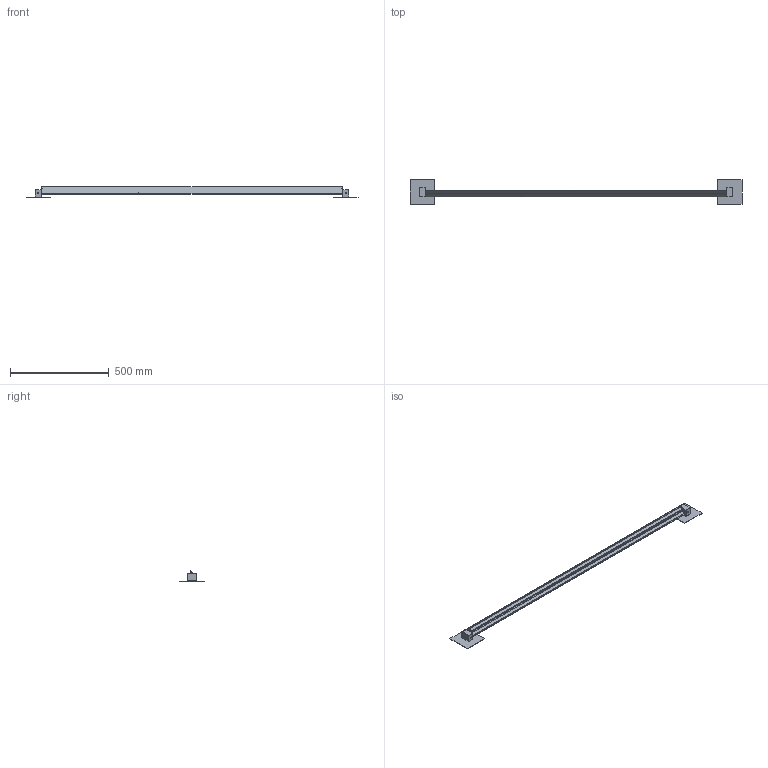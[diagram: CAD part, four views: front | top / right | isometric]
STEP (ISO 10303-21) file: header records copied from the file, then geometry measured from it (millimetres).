
FILE_DESCRIPTION(/* description */ ('Unknown'),/* implementation_level */ '2;1');
FILE_NAME(/* name */ 'F39 G05-G06',/* time_stamp */ '2021-01-11T10:25:13+01:00',/* author */ ('Unknown'),/* organization */ ('Unknown'),/* preprocessor_version */ 'ST-DEVELOPER v16.7',/* originating_system */ 'Solid Edge',/* authorisation */ 'Unknown');
FILE_SCHEMA (('AUTOMOTIVE_DESIGN {1 0 10303 214 3 1 1}'));
Length unit declared in the file: millimetre
Products named in the file (11): ASSIEME APPLIQUE GRANDE PIVOT_R07 - America; STAFFA AP PIVOT_R07; COPRI STAFFA AP PIVOT_R07; PERNO PIVOT_R07; TAPPO TESTA PIVOT_R07; hex nut style 1 gradeab_iso_Hexagon Nut ISO - 4032 - M8 - D - N; BARRA APPLIQUE PIVOT  GRANDE; DIFFUSORE APPLIQUE PIVOT GRANDE; Vite TCSC M3 X  4; Vite TCC autof. 2,2 x 6; Placca America
Assembly tree (21 placements, depth 2):
  ASSIEME APPLIQUE GRANDE PIVOT_R07 - America
    STAFFA AP PIVOT_R07  x2
    COPRI STAFFA AP PIVOT_R07  x2
    PERNO PIVOT_R07  x2
    TAPPO TESTA PIVOT_R07  x2
    hex nut style 1 gradeab_iso_Hexagon Nut ISO - 4032 - M8 - D - N  x2
    BARRA APPLIQUE PIVOT  GRANDE
    DIFFUSORE APPLIQUE PIVOT GRANDE  x2
    Vite TCSC M3 X  4  x4
    Vite TCC autof. 2,2 x 6  x2
    Placca America  x2
Bounding box: 1682 x 125.16 x 55.47 mm (x, y, z)
Volume: 405243.6 mm3; surface area: 562768.6 mm2
Topology: 21 solids, 21 shells, 613 faces, 1511 edges, 957 vertices
Faces by surface type: plane 311, cylinder 198, cone 58, bspline 24, torus 20, sphere 2
Full cylindrical faces by diameter (mm): 1.2 x10, 2 x2, 2.5 x4, 3 x6, 3.4 x4, 4 x4, 5 x2, 5.2 x4, 6.8 x2, 7 x8, 7.2 x1, 8 x4, 8.2 x2, 11 x2, 13 x2
Entity records: 10930 total; most frequent: CARTESIAN_POINT 2911, DIRECTION 1554, ORIENTED_EDGE 1466, EDGE_CURVE 733, AXIS2_PLACEMENT_3D 557, VERTEX_POINT 490, LINE 440, VECTOR 440
